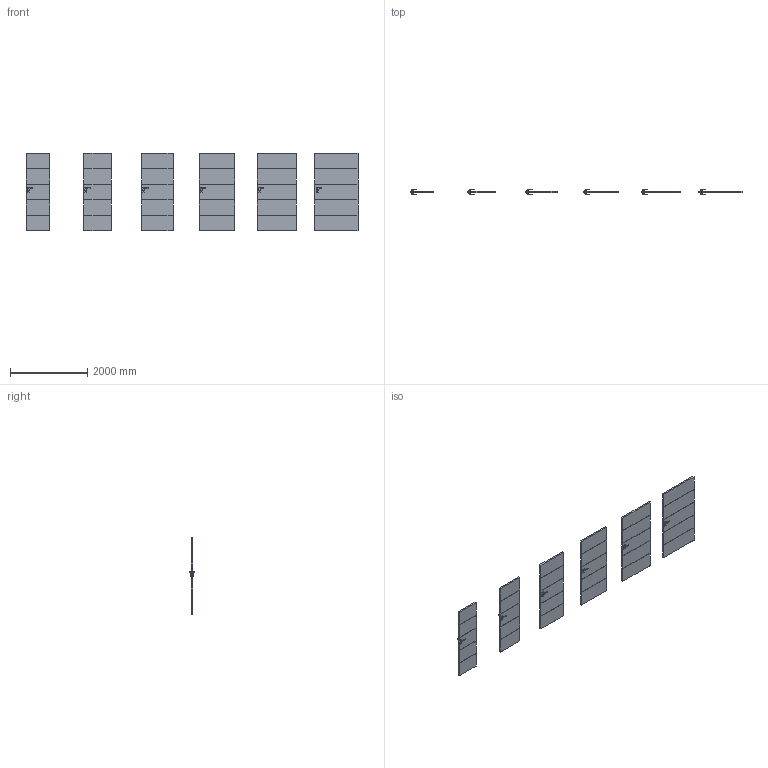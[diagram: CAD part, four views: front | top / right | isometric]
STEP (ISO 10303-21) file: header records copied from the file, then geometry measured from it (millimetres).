
FILE_DESCRIPTION(/* description */ (''),/* implementation_level */ '2;1');
FILE_NAME(/* name */ '049691_A_2-Skrzydło VECTOR E_ polska norma _PN__ bezprzylgowe..stp',/* time_stamp */ '2024-02-09T10:38:15+01:00',/* author */ (''),/* organization */ (''),/* preprocessor_version */ 'ST-DEVELOPER v16',/* originating_system */ 'SIEMENS PLM Software NX 11.0',/* authorisation */ '');
FILE_SCHEMA (('AUTOMOTIVE_DESIGN { 1 0 10303 214 3 1 1 1 }'));
Length unit declared in the file: millimetre
Products named in the file (1): bkni8EE4756Akzm5
Bounding box: 8618 x 153.27 x 2017 mm (x, y, z)
Volume: 413273971 mm3; surface area: 22712016.5 mm2
Topology: 30 solids, 30 shells, 1440 faces, 3612 edges, 2112 vertices
Faces by surface type: plane 624, cylinder 456, bspline 192, sphere 168
Entity records: 48364 total; most frequent: CARTESIAN_POINT 15421, ORIENTED_EDGE 6888, DIRECTION 6686, EDGE_CURVE 3444, AXIS2_PLACEMENT_3D 2353, VERTEX_POINT 2112, LINE 1980, VECTOR 1980
